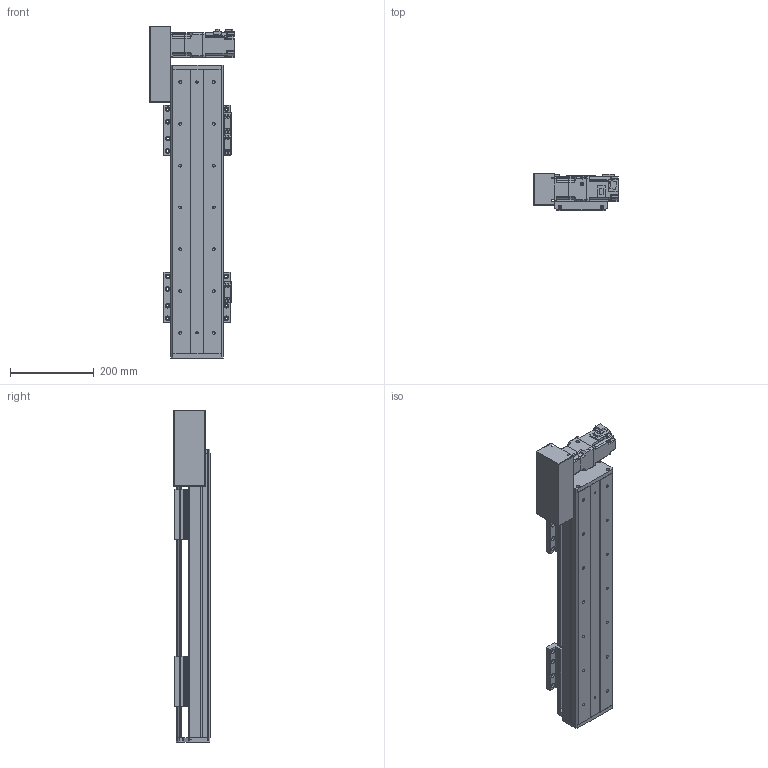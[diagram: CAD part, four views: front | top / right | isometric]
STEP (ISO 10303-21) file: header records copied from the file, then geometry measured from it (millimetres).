
FILE_DESCRIPTION(/* description */ (''),/* implementation_level */ '2;1');
FILE_NAME(/* name */ 'D:\(주)디에스알-FILESERVER\A-\X2\C124ACC4\X0\\A-개발\A-2017년\G-\X2\B85CBD07C678D615B3C4\X0\\B-3D\B-DSB\A-DSB125\A-L TYPE\DSB125-L2G-W0400-R.stp',/* time_stamp */ '2018-06-13T10:09:22+09:00',/* author */ ('PC'),/* organization */ (''),/* preprocessor_version */ 'ST-DEVELOPER v16.5',/* originating_system */ 'Autodesk Inventor 2017',/* authorisation */ '');
FILE_SCHEMA (('AUTOMOTIVE_DESIGN { 1 0 10303 214 3 1 1 }'));
Length unit declared in the file: millimetre
Products named in the file (12): DSB125-L-300ST; DSR125-BASE(S-TYPE); DSR125-REAR COVER-R01(170203); DSR125-REAR COVER-R01(170203)_1; DSR125-UP COVER-R01(170203); DSR125-TABLE(MSA15X); hg-kr23_; ab0601-p0401200402; 13-BELT COVER; DSR126-SENSOR DOG; pm-y65_step; SENSOR BRACKET(EE-SX674A)
Assembly tree (16 placements, depth 2):
  DSB125-L-300ST
    DSR125-BASE(S-TYPE)
    DSR125-REAR COVER-R01(170203)
    DSR125-REAR COVER-R01(170203)_1
    DSR125-UP COVER-R01(170203)
    DSR125-TABLE(MSA15X)  x2
    hg-kr23_
    ab0601-p0401200402
    13-BELT COVER
    DSR126-SENSOR DOG
    pm-y65_step  x3
    SENSOR BRACKET(EE-SX674A)  x3
Bounding box: 202.1 x 88 x 794 mm (x, y, z)
Volume: 3135847.2 mm3; surface area: 907511.7 mm2
Topology: 17 solids, 22 shells, 1649 faces, 4471 edges, 2952 vertices
Faces by surface type: plane 908, cylinder 625, cone 104, sphere 8, torus 4
Full cylindrical faces by diameter (mm): 2.459 x20, 3.242 x16, 3.5 x6, 4 x1, 4.134 x16, 4.2 x4, 4.3 x1, 4.5 x50, 4.917 x20, 5 x27, 5.3 x1, 5.5 x4, 5.6 x8, 5.8 x4, 5.9 x8, 6 x4, 6.6 x22, 6.647 x14, 7.5 x32, 8.5 x8, 8.7 x1, 11 x22, 14 x1, 16 x2, 17 x1, 20 x1, 47 x1, 50 x3
Entity records: 35110 total; most frequent: CARTESIAN_POINT 6463, DIRECTION 6076, ORIENTED_EDGE 5454, EDGE_CURVE 2732, AXIS2_PLACEMENT_3D 2226, VERTEX_POINT 1941, EDGE_LOOP 1649, LINE 1624
